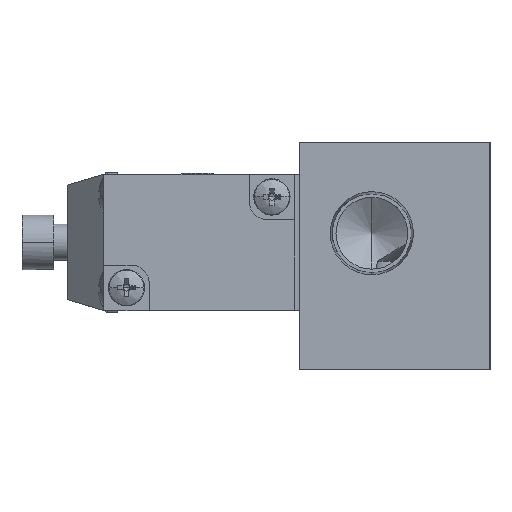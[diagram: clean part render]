
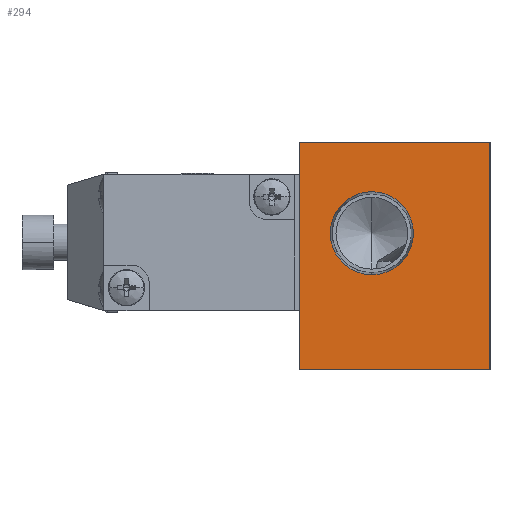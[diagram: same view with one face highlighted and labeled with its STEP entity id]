
A CAD part, left-side view. The second image highlights one B-rep face of the part: STEP entity #294.
In plain terms, the highlighted planar face has unit normal (-1, 0, 0).
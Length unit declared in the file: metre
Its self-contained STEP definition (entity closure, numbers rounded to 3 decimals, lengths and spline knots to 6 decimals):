
#294 = ADVANCED_FACE ( 'NONE', ( #6970, #11659 ), #12209, .T. ) ;
#342 = CARTESIAN_POINT ( 'NONE',  ( -0.019, 0.0105, 0.011 ) ) ;
#410 = LINE ( 'NONE', #6038, #8198 ) ;
#468 = CARTESIAN_POINT ( 'NONE',  ( -0.019, -0.0105, -0.014 ) ) ;
#655 = EDGE_CURVE ( 'NONE', #5503, #4746, #410, .T. ) ;
#775 = CARTESIAN_POINT ( 'NONE',  ( -0.019, -0.0105, -0.0015 ) ) ;
#790 = CARTESIAN_POINT ( 'NONE',  ( -0.019, 0.0025, 0.001 ) ) ;
#933 = DIRECTION ( 'NONE',  ( 0., 0., -1. ) ) ;
#1229 = ORIENTED_EDGE ( 'NONE', *, *, #655, .F. ) ;
#1405 = CARTESIAN_POINT ( 'NONE',  ( -0.019, -0.0105, 0.011 ) ) ;
#1634 = VECTOR ( 'NONE', #6412, 1. ) ;
#1838 = DIRECTION ( 'NONE',  ( 0., 0., 1. ) ) ;
#1855 = VERTEX_POINT ( 'NONE', #10039 ) ;
#2087 = LINE ( 'NONE', #775, #9858 ) ;
#2502 = VERTEX_POINT ( 'NONE', #468 ) ;
#2896 = AXIS2_PLACEMENT_3D ( 'NONE', #790, #7913, #1838 ) ;
#3172 = ORIENTED_EDGE ( 'NONE', *, *, #5048, .F. ) ;
#3217 = AXIS2_PLACEMENT_3D ( 'NONE', #12690, #12659, #12816 ) ;
#3383 = CARTESIAN_POINT ( 'NONE',  ( -0.019, 0.0025, 0.001 ) ) ;
#3409 = ORIENTED_EDGE ( 'NONE', *, *, #3686, .T. ) ;
#3442 = LINE ( 'NONE', #8091, #5811 ) ;
#3686 = EDGE_CURVE ( 'NONE', #10045, #4746, #12384, .T. ) ;
#4404 = DIRECTION ( 'NONE',  ( 0., 0., 1. ) ) ;
#4746 = VERTEX_POINT ( 'NONE', #342 ) ;
#4865 = CARTESIAN_POINT ( 'NONE',  ( -0.019, 0., 0.011 ) ) ;
#4896 = CARTESIAN_POINT ( 'NONE',  ( -0.019, 0.0025, 0.005574 ) ) ;
#5048 = EDGE_CURVE ( 'NONE', #10045, #2502, #2087, .T. ) ;
#5503 = VERTEX_POINT ( 'NONE', #8872 ) ;
#5811 = VECTOR ( 'NONE', #9113, 1. ) ;
#6038 = CARTESIAN_POINT ( 'NONE',  ( -0.019, 0.0105, -0.0015 ) ) ;
#6082 = DIRECTION ( 'NONE',  ( 0., 0., 1. ) ) ;
#6412 = DIRECTION ( 'NONE',  ( 0., 1., 0. ) ) ;
#6970 = FACE_BOUND ( 'NONE', #9568, .T. ) ;
#6982 = EDGE_CURVE ( 'NONE', #8791, #1855, #10479, .T. ) ;
#7841 = AXIS2_PLACEMENT_3D ( 'NONE', #3383, #10445, #4404 ) ;
#7913 = DIRECTION ( 'NONE',  ( 1., 0., 0. ) ) ;
#8091 = CARTESIAN_POINT ( 'NONE',  ( -0.019, 0., -0.014 ) ) ;
#8198 = VECTOR ( 'NONE', #6082, 1. ) ;
#8541 = ORIENTED_EDGE ( 'NONE', *, *, #9782, .F. ) ;
#8791 = VERTEX_POINT ( 'NONE', #4896 ) ;
#8872 = CARTESIAN_POINT ( 'NONE',  ( -0.019, 0.0105, -0.014 ) ) ;
#9113 = DIRECTION ( 'NONE',  ( 0., 1., 0. ) ) ;
#9459 = EDGE_LOOP ( 'NONE', ( #1229, #8541, #3172, #3409 ) ) ;
#9568 = EDGE_LOOP ( 'NONE', ( #9828, #12465 ) ) ;
#9782 = EDGE_CURVE ( 'NONE', #2502, #5503, #3442, .T. ) ;
#9828 = ORIENTED_EDGE ( 'NONE', *, *, #6982, .T. ) ;
#9858 = VECTOR ( 'NONE', #933, 1. ) ;
#10039 = CARTESIAN_POINT ( 'NONE',  ( -0.019, 0.0025, -0.003574 ) ) ;
#10045 = VERTEX_POINT ( 'NONE', #1405 ) ;
#10445 = DIRECTION ( 'NONE',  ( 1., 0., 0. ) ) ;
#10479 = CIRCLE ( 'NONE', #7841, 0.004574 ) ;
#11295 = EDGE_CURVE ( 'NONE', #1855, #8791, #11447, .T. ) ;
#11447 = CIRCLE ( 'NONE', #2896, 0.004574 ) ;
#11659 = FACE_OUTER_BOUND ( 'NONE', #9459, .T. ) ;
#12209 = PLANE ( 'NONE',  #3217 ) ;
#12384 = LINE ( 'NONE', #4865, #1634 ) ;
#12465 = ORIENTED_EDGE ( 'NONE', *, *, #11295, .T. ) ;
#12659 = DIRECTION ( 'NONE',  ( -1., 0., 0. ) ) ;
#12690 = CARTESIAN_POINT ( 'NONE',  ( -0.019, -0.0105, -0.014 ) ) ;
#12816 = DIRECTION ( 'NONE',  ( 0., 0., 1. ) ) ;
